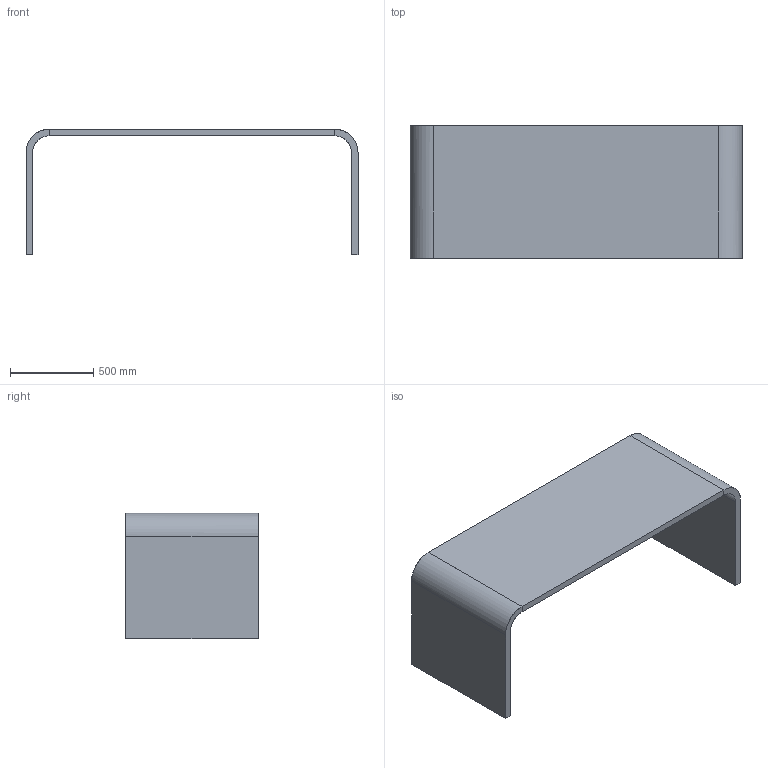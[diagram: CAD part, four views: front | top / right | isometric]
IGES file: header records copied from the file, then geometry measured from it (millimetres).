
Start section: Comment
Global section: file name: M10-1-20.igs; native system:  By UGS Corp.; preprocessor: XPlus GENERIC/IGES 3.0; author: Author; organization: Title; date: 20140729.103620; units: inch
Bounding box: 1996 x 798 x 755 mm (x, y, z)
Surface area: 5760668.8 mm2 (no closed solid volume)
Topology: 0 solids, 0 shells, 22 faces, 96 edges, 96 vertices
Faces by surface type: bspline 22
